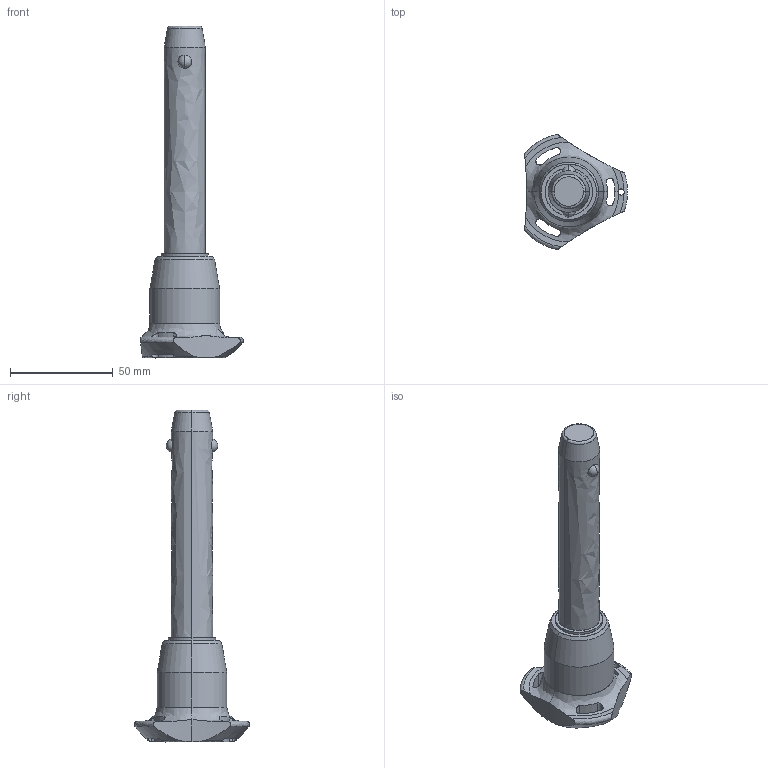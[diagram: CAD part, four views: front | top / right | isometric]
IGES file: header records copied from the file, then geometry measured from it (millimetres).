
Start section: SolidWorks IGES file using analytic representation for surfaces
Global section: file name: C:\Users\ianosborn\Desktop\QR1734_v2\QR1734_v2_20251113_IGES\QR1734.M20-090-S.igs; native system: SolidWorks 2019; preprocessor: SolidWorks 2019; author: IanOsborn; date: 251112.144128; units: millimetre
Bounding box: 50.03 x 56.02 x 161.2 mm (x, y, z)
Surface area: 16622.1 mm2 (no closed solid volume)
Topology: 0 solids, 0 shells, 65 faces, 1310 edges, 1306 vertices
Faces by surface type: revolution 50, bspline 15
